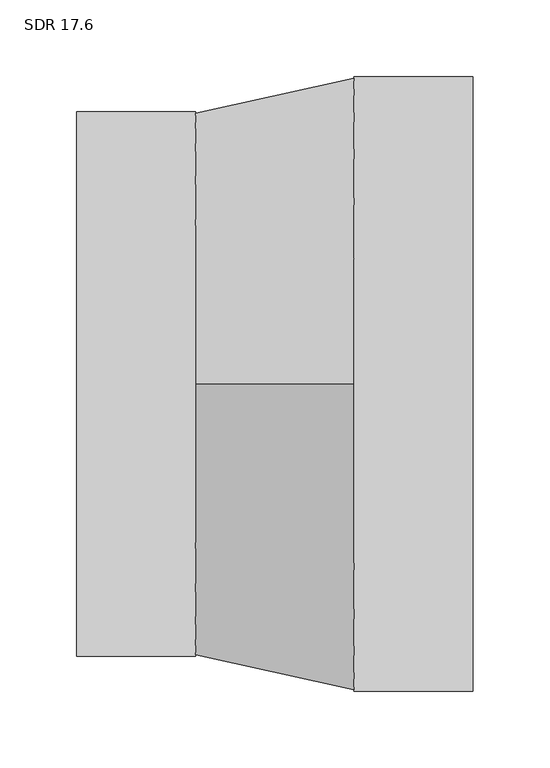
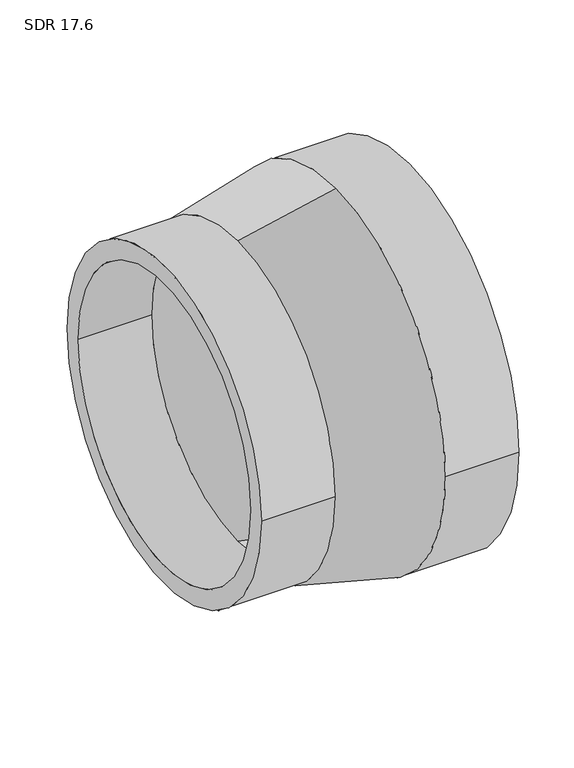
"""IFC4 building model written with IfcOpenShell, lengths in millimetres: pipe fitting geometry, Aquatherm - Reducing Coupling Combined - METRIC : SDR 17.6."""

from ifc_helpers import new_model, si_unit, frame, origin, place, context, project, spatial, polyline, circle_curve, source, transform, mapped, element, save
from ifc_brep_helpers import plane_surface, cylinder_surface, revolved_surface, advanced_brep


def sdr_17_6_49d82121(model_context):
    return source(origin(), model_context, "Body", "AdvancedBrep", [
        advanced_brep(
        [(-129.54, -177.8, 0.0), (-129.54, 177.8, 0.0), (-129.54, -157.5954545, 0.0), (-129.54, 157.5954545, 0.0), (-51.816, 157.5954545, 0.0), (-51.816, 0.0, 157.5954545), (-51.816, -157.5954545, 0.0), (-51.816, 0.0, -157.5954545), (-51.816, 177.8, 0.0), (-51.816, 0.0, -177.8), (-51.816, -177.8, 0.0), (-51.816, 0.0, 177.8), (129.54, -200.66, 0.0), (129.54, 200.66, 0.0), (129.54, -177.8577273, 0.0), (129.54, 177.8577273, 0.0), (51.816, -200.66, 0.0), (51.816, 0.0, -200.66), (51.816, 200.66, 0.0), (51.816, 0.0, 200.66), (51.816, -177.8577273, 0.0), (51.816, 0.0, 177.8577273), (51.816, 177.8577273, 0.0), (51.816, 0.0, -177.8577273)],
        [
            (0, 1, circle_curve(frame((-129.54, 0.0, 0.0), z_axis=(-1.0, 0.0, 0.0), x_axis=(0.0, 1.0, 0.0)), 177.8)),
            (1, 0, circle_curve(frame((-129.54, 0.0, 0.0), z_axis=(-1.0, 0.0, 0.0), x_axis=(0.0, 1.0, 0.0)), 177.8)),
            (2, 3, circle_curve(frame((-129.54, 0.0, 0.0), z_axis=(1.0, 0.0, 0.0), x_axis=(0.0, 1.0, 0.0)), 157.5954545)),
            (3, 2, circle_curve(frame((-129.54, 0.0, 0.0), z_axis=(1.0, 0.0, 0.0), x_axis=(0.0, 1.0, 0.0)), 157.5954545)),
            (3, 4),
            (4, 5, circle_curve(frame((-51.816, 0.0, 0.0), z_axis=(1.0, 0.0, 0.0), x_axis=(0.0, 1.0, 0.0)), 157.5954545)),
            (5, 6, circle_curve(frame((-51.816, 0.0, 0.0), z_axis=(1.0, 0.0, 0.0), x_axis=(0.0, 1.0, 0.0)), 157.5954545)),
            (6, 2),
            (6, 7, circle_curve(frame((-51.816, 0.0, 0.0), z_axis=(1.0, 0.0, 0.0), x_axis=(0.0, 1.0, 0.0)), 157.5954545)),
            (7, 4, circle_curve(frame((-51.816, 0.0, 0.0), z_axis=(1.0, 0.0, 0.0), x_axis=(0.0, 1.0, 0.0)), 157.5954545)),
            (1, 8),
            (8, 9, circle_curve(frame((-51.816, 0.0, 0.0), z_axis=(-1.0, 0.0, 0.0), x_axis=(0.0, 1.0, 0.0)), 177.8)),
            (9, 10, circle_curve(frame((-51.816, 0.0, 0.0), z_axis=(-1.0, 0.0, 0.0), x_axis=(0.0, 1.0, 0.0)), 177.8)),
            (10, 0),
            (10, 11, circle_curve(frame((-51.816, 0.0, 0.0), z_axis=(-1.0, 0.0, 0.0), x_axis=(0.0, 1.0, 0.0)), 177.8)),
            (11, 8, circle_curve(frame((-51.816, 0.0, 0.0), z_axis=(-1.0, 0.0, 0.0), x_axis=(0.0, 1.0, 0.0)), 177.8)),
            (12, 13, circle_curve(frame((129.54, 0.0, 0.0), z_axis=(1.0, 0.0, 0.0), x_axis=(0.0, 1.0, 0.0)), 200.66)),
            (13, 12, circle_curve(frame((129.54, 0.0, 0.0), z_axis=(1.0, 0.0, 0.0), x_axis=(0.0, 1.0, 0.0)), 200.66)),
            (14, 15, circle_curve(frame((129.54, 0.0, 0.0), z_axis=(-1.0, 0.0, 0.0), x_axis=(0.0, 1.0, 0.0)), 177.8577273)),
            (15, 14, circle_curve(frame((129.54, 0.0, 0.0), z_axis=(-1.0, 0.0, 0.0), x_axis=(0.0, 1.0, 0.0)), 177.8577273)),
            (12, 16),
            (16, 17, circle_curve(frame((51.816, 0.0, 0.0), z_axis=(1.0, 0.0, 0.0), x_axis=(0.0, 1.0, 0.0)), 200.66)),
            (17, 18, circle_curve(frame((51.816, 0.0, 0.0), z_axis=(1.0, 0.0, 0.0), x_axis=(0.0, 1.0, 0.0)), 200.66)),
            (18, 13),
            (18, 19, circle_curve(frame((51.816, 0.0, 0.0), z_axis=(1.0, 0.0, 0.0), x_axis=(0.0, 1.0, 0.0)), 200.66)),
            (19, 16, circle_curve(frame((51.816, 0.0, 0.0), z_axis=(1.0, 0.0, 0.0), x_axis=(0.0, 1.0, 0.0)), 200.66)),
            (14, 20),
            (20, 21, circle_curve(frame((51.816, 0.0, 0.0), z_axis=(-1.0, 0.0, 0.0), x_axis=(0.0, 1.0, 0.0)), 177.8577273)),
            (21, 22, circle_curve(frame((51.816, 0.0, 0.0), z_axis=(-1.0, 0.0, 0.0), x_axis=(0.0, 1.0, 0.0)), 177.8577273)),
            (22, 15),
            (22, 23, circle_curve(frame((51.816, 0.0, 0.0), z_axis=(-1.0, 0.0, 0.0), x_axis=(0.0, 1.0, 0.0)), 177.8577273)),
            (23, 20, circle_curve(frame((51.816, 0.0, 0.0), z_axis=(-1.0, 0.0, 0.0), x_axis=(0.0, 1.0, 0.0)), 177.8577273)),
            (11, 19),
            (17, 9),
            (21, 5),
            (7, 23),
        ],
        [
            plane_surface(frame((-129.54, 157.5954545, 0.0), z_axis=(-1.0, 0.0, 0.0), x_axis=(0.0, 0.0, 1.0))),
            revolved_surface(polyline([(-129.54, 157.5954545, 0.0), (-51.816, 157.5954545, 0.0)]), (-129.54, 0.0, 0.0), (-1.0, 0.0, 0.0)),
            cylinder_surface(frame((0.0, 0.0, 0.0), z_axis=(1.0, 0.0, 0.0), x_axis=(0.0, 1.0, 0.0)), 177.8),
            plane_surface(frame((129.54, 200.66, 0.0), z_axis=(1.0, 0.0, 0.0), x_axis=(0.0, 0.0, 1.0))),
            cylinder_surface(frame((51.816, 0.0, 0.0), z_axis=(1.0, 0.0, 0.0), x_axis=(0.0, 1.0, 0.0)), 200.66),
            revolved_surface(polyline([(51.816, 177.8577273, 0.0), (129.54, 177.8577273, 0.0)]), (0.0, 0.0, 0.0), (-1.0, 0.0, 0.0)),
            revolved_surface(polyline([(51.816, 0.0, 200.66), (-51.816, 0.0, 177.8)]), (-704.7995384, 0.0, 0.0), (-1.0, 0.0, 0.0)),
            revolved_surface(polyline([(-51.816, 0.0, 157.5954545), (51.816, 0.0, 177.8577273)]), (-704.7995384, 0.0, 0.0), (-1.0, 0.0, 0.0)),
        ],
        [
            (0, [[1, 2], [3, 4]]),
            (1, [[-4, 5, 6, 7, 8]]),
            (1, [[-3, -8, 9, 10, -5]]),
            (2, [[-2, 11, 12, 13, 14]]),
            (2, [[-1, -14, 15, 16, -11]]),
            (3, [[17, 18], [19, 20]]),
            (4, [[-17, 21, 22, 23, 24]]),
            (4, [[-18, -24, 25, 26, -21]]),
            (5, [[-19, 27, 28, 29, 30]]),
            (5, [[-20, -30, 31, 32, -27]]),
            (6, [[33, -25, -23, 34, -12, -16]]),
            (6, [[-33, -15, -13, -34, -22, -26]]),
            (7, [[35, -6, -10, 36, -31, -29]]),
            (7, [[-35, -28, -32, -36, -9, -7]]),
        ],
    ),
    ])


if __name__ == "__main__":
    model = new_model("IFC4")
    model_context = context("Model", 3, world=origin())
    ifc_project = project(units=[si_unit("LENGTHUNIT", "METRE", prefix="MILLI")], contexts=[model_context])
    site = spatial("IfcSite", under=ifc_project)
    building = spatial("IfcBuilding", under=site)
    placement = place(None, origin())
    sdr_17_6_shape = sdr_17_6_49d82121(model_context)
    element("IfcPipeFitting", 1, ObjectType="Aquatherm - Reducing Coupling Combined - METRIC : SDR 17.6", at=placement, inside=building, context=model_context, shape_type="MappedRepresentation", body=[
        mapped(sdr_17_6_shape, transform((0.0, 0.0, 0.0), x_axis=(1.0, 0.0, 0.0), y_axis=(0.0, 1.0, 0.0), z_axis=(0.0, 0.0, 1.0))),
    ])
    save(model, "model.ifc")
